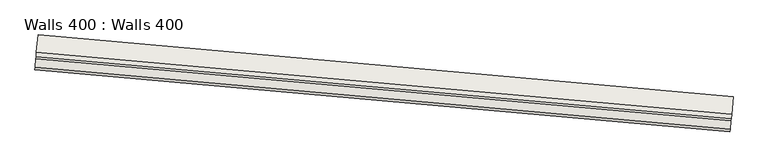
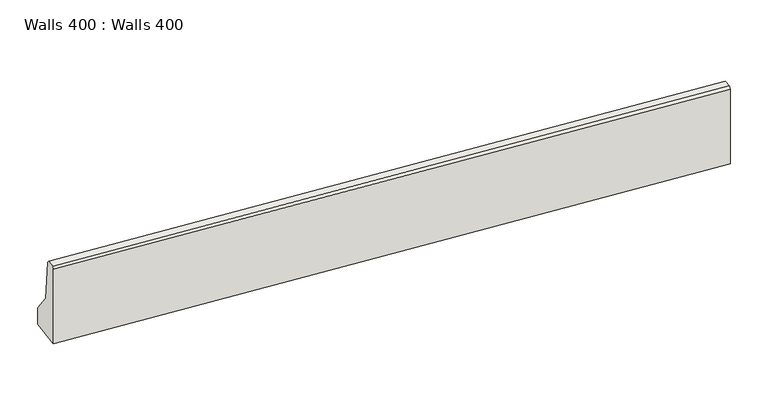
"""IFC4 building model written with IfcOpenShell, lengths in millimetres: wall geometry, Walls 400 : Walls 400."""

from ifc_helpers import new_model, si_unit, frame, origin, place, context, project, spatial, polyline, outline, extrude, source, transform, mapped, element, save


def walls_400_walls_400_2f9fea9d(model_context):
    return source(origin(), model_context, "Body", "SweptSolid", [
        extrude(outline(polyline([(638180.0, 400.0), (638430.0, 199.9999999), (638935.0, 149.9999999), (638960.0, 124.9999999), (638960.0, 24.9999999), (638935.0, 0.0), (637960.0, 0.0), (637960.0, 400.0), (638180.0, 400.0)])), frame((-563110.962566, -428913.6384424, 0.0), z_axis=(-0.9960550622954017, 0.08873732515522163, 0.0), x_axis=(0.0, 0.0, 1.0)), (0.0, 0.0, 1.0), 7999.9999999),
    ])


if __name__ == "__main__":
    model = new_model("IFC4")
    model_context = context("Model", 3, world=origin())
    ifc_project = project(units=[si_unit("LENGTHUNIT", "METRE", prefix="MILLI")], contexts=[model_context])
    site = spatial("IfcSite", under=ifc_project)
    building = spatial("IfcBuilding", under=site)
    placement = place(None, origin())
    walls_400_walls_400_shape = walls_400_walls_400_2f9fea9d(model_context)
    element("IfcWall", 1, ObjectType="Walls 400 : Walls 400", at=placement, inside=building, context=model_context, shape_type="MappedRepresentation", body=[
        mapped(walls_400_walls_400_shape, transform((0.0, 0.0, 0.0), x_axis=(1.0, 0.0, 0.0), y_axis=(0.0, 1.0, 0.0), z_axis=(0.0, 0.0, 1.0))),
    ])
    save(model, "model.ifc")
